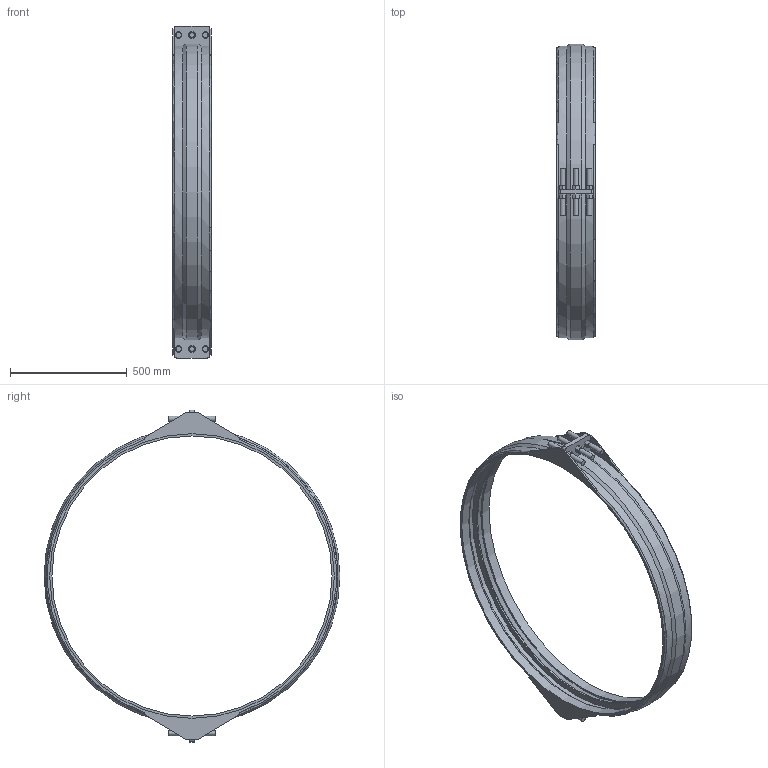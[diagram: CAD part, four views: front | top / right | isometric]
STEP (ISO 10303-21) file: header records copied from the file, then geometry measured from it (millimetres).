
FILE_DESCRIPTION(/* description */ ('VIC SS RESTRAINED COUPLING STYLE 234S (FLEX) (BRS)','CAx-IF Rec.Pracs.---Representation and Presentation of Product Manufacturing Information (PMI)---4.0---2014-10-13'),/* implementation_level */ '2;1');
FILE_NAME(/* name */ 'C:\Users\kkamble\AppData\Roaming\Autodesk\ApplicationPlugins\Back Up\Victaulic_VBSP_Coupling Flexible Restrained_Style 234S (BRS)\Victaulic_VBSP_Coupling Flexible Restrained_Style 234S (BRS)_100psi_48 (1200).stp',/* time_stamp */ '2020-09-22T18:42:14+05:00',/* author */ ('Vjadhav'),/* organization */ ('Victaulic'),/* preprocessor_version */ 'ST-DEVELOPER v17.2',/* originating_system */ 'Autodesk Inventor 2019',/* authorisation */ '');
FILE_SCHEMA (('AP242_MANAGED_MODEL_BASED_3D_ENGINEERING_MIM_LF { 1 0 10303 442 1 1 4 }'));
Length unit declared in the file: inch
Products named in the file (1): Style_234S_Type_2_100psi-48.0
Bounding box: 165.1 x 1267.71 x 1422.4 mm (x, y, z)
Volume: 10212173.8 mm3; surface area: 1910546.7 mm2
Topology: 1 solids, 1 shells, 191 faces, 477 edges, 316 vertices
Faces by surface type: plane 136, cylinder 43, torus 6, cone 6
Full cylindrical faces by diameter (mm): 22.225 x12, 1200.15 x1, 1219.2 x2, 1248.66 x2
Entity records: 6154 total; most frequent: CARTESIAN_POINT 1162, DIRECTION 989, ORIENTED_EDGE 954, EDGE_CURVE 477, LINE 343, VECTOR 343, AXIS2_PLACEMENT_3D 323, VERTEX_POINT 316
